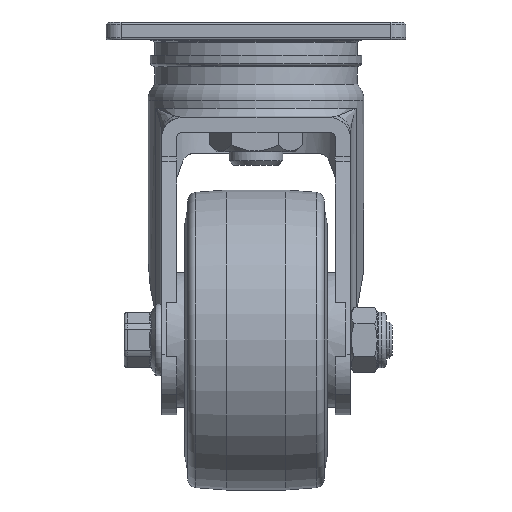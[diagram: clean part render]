
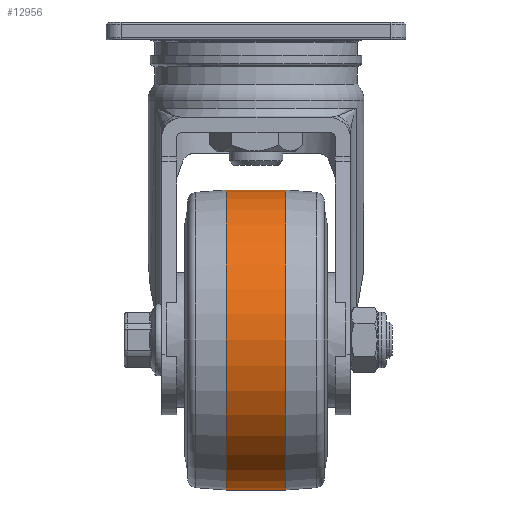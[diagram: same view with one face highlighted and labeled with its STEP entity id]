
A CAD part, left-side view. The second image highlights one B-rep face of the part: STEP entity #12956.
In plain terms, the highlighted cylindrical face has radius 50 mm (diameter 100 mm), a full revolution.
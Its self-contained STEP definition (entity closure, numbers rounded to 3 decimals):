
#1466=LINE('',#21786,#2468);
#2468=VECTOR('',#15666,50.);
#2888=CYLINDRICAL_SURFACE('',#13734,50.);
#4142=FACE_OUTER_BOUND('',#4897,.T.);
#4897=EDGE_LOOP('',(#10866,#10867,#10868,#10869));
#5375=CIRCLE('',#13733,50.);
#5376=CIRCLE('',#13735,50.);
#6281=VERTEX_POINT('',#21780);
#6282=VERTEX_POINT('',#21784);
#7874=EDGE_CURVE('',#6281,#6281,#5375,.T.);
#7876=EDGE_CURVE('',#6282,#6282,#5376,.T.);
#7877=EDGE_CURVE('',#6282,#6281,#1466,.T.);
#10866=ORIENTED_EDGE('',*,*,#7876,.F.);
#10867=ORIENTED_EDGE('',*,*,#7877,.T.);
#10868=ORIENTED_EDGE('',*,*,#7874,.T.);
#10869=ORIENTED_EDGE('',*,*,#7877,.F.);
#12956=ADVANCED_FACE('',(#4142),#2888,.T.);
#13733=AXIS2_PLACEMENT_3D('',#21781,#15659,#15660);
#13734=AXIS2_PLACEMENT_3D('',#21783,#15662,#15663);
#13735=AXIS2_PLACEMENT_3D('',#21785,#15664,#15665);
#15659=DIRECTION('center_axis',(0.,1.,0.));
#15660=DIRECTION('ref_axis',(0.,0.,
-1.));
#15662=DIRECTION('center_axis',(0.,1.,0.));
#15663=DIRECTION('ref_axis',(-1.,0.,0.));
#15664=DIRECTION('center_axis',(0.,1.,0.));
#15665=DIRECTION('ref_axis',(0.,0.,
-1.));
#15666=DIRECTION('',(0.,-1.,0.));
#21780=CARTESIAN_POINT('',(0.,-10.,-87.6));
#21781=CARTESIAN_POINT('Origin',(-50.,-10.,-87.6));
#21783=CARTESIAN_POINT('Origin',(-50.,0.,
-87.6));
#21784=CARTESIAN_POINT('',(0.,10.,-87.6));
#21785=CARTESIAN_POINT('Origin',(-50.,10.,-87.6));
#21786=CARTESIAN_POINT('',(0.,0.,-87.6));
